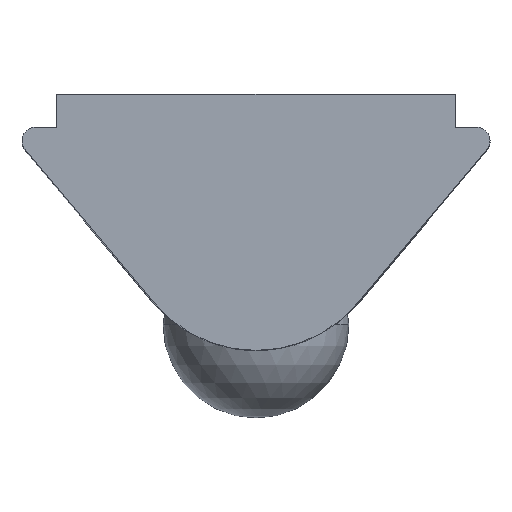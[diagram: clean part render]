
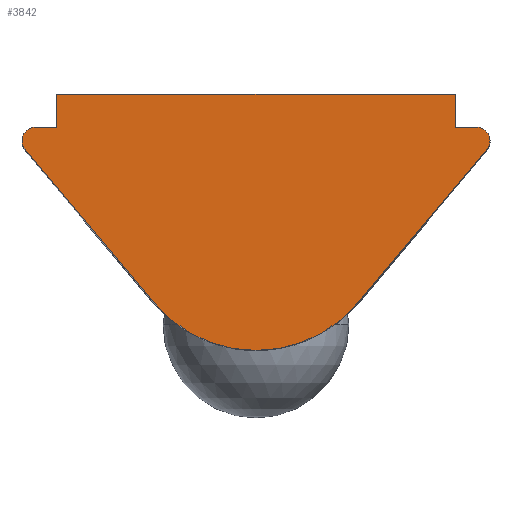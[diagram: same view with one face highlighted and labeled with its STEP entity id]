
A CAD part, top view. The second image highlights one B-rep face of the part: STEP entity #3842.
In plain terms, the highlighted planar face has unit normal (0, 0, 1).
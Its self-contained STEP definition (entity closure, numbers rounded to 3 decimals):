
#35 = DIRECTION ( 'NONE',  ( 0., 0., 1. ) ) ;
#129 = AXIS2_PLACEMENT_3D ( 'NONE', #3632, #3167, #2710 ) ;
#240 = EDGE_CURVE ( 'NONE', #4251, #1057, #3035, .T. ) ;
#328 = CARTESIAN_POINT ( 'NONE',  ( 3., 4.969, 6.5 ) ) ;
#401 = VECTOR ( 'NONE', #3441, 1000. ) ;
#486 = CARTESIAN_POINT ( 'NONE',  ( 0., 0., 6.5 ) ) ;
#517 = CARTESIAN_POINT ( 'NONE',  ( 3.321, 4.269, 6.5 ) ) ;
#519 = FACE_OUTER_BOUND ( 'NONE', #2310, .T. ) ;
#548 = ORIENTED_EDGE ( 'NONE', *, *, #1685, .T. ) ;
#554 = EDGE_CURVE ( 'NONE', #2750, #2922, #2476, .T. ) ;
#565 = VECTOR ( 'NONE', #2973, 1000. ) ;
#594 = CARTESIAN_POINT ( 'NONE',  ( 1.532, 1.826, 6.5 ) ) ;
#691 = VERTEX_POINT ( 'NONE', #818 ) ;
#780 = LINE ( 'NONE', #328, #2018 ) ;
#818 = CARTESIAN_POINT ( 'NONE',  ( -1.532, 1.826, 6.5 ) ) ;
#1040 = CIRCLE ( 'NONE', #129, 0.2 ) ;
#1057 = VERTEX_POINT ( 'NONE', #1495 ) ;
#1062 = CARTESIAN_POINT ( 'NONE',  ( -3.474, 4.141, 6.5 ) ) ;
#1071 = DIRECTION ( 'NONE',  ( 1., 0., 0. ) ) ;
#1093 = CIRCLE ( 'NONE', #3463, 2. ) ;
#1138 = DIRECTION ( 'NONE',  ( 1., 0., 0. ) ) ;
#1397 = PLANE ( 'NONE',  #4180 ) ;
#1495 = CARTESIAN_POINT ( 'NONE',  ( -3., 4.469, 6.5 ) ) ;
#1504 = ORIENTED_EDGE ( 'NONE', *, *, #3357, .T. ) ;
#1516 = DIRECTION ( 'NONE',  ( 0.643, 0.766, 0. ) ) ;
#1524 = DIRECTION ( 'NONE',  ( 0., 0., 1. ) ) ;
#1593 = VECTOR ( 'NONE', #2416, 1000. ) ;
#1596 = DIRECTION ( 'NONE',  ( 0., 0., 1. ) ) ;
#1685 = EDGE_CURVE ( 'NONE', #2922, #691, #3330, .T. ) ;
#1735 = CARTESIAN_POINT ( 'NONE',  ( -3.521, 4.269, 6.5 ) ) ;
#1974 = CARTESIAN_POINT ( 'NONE',  ( 0., 0., 6.5 ) ) ;
#1983 = CARTESIAN_POINT ( 'NONE',  ( 0., 3.111, 6.5 ) ) ;
#2018 = VECTOR ( 'NONE', #4325, 1000. ) ;
#2035 = EDGE_CURVE ( 'NONE', #2335, #4341, #780, .T. ) ;
#2049 = CARTESIAN_POINT ( 'NONE',  ( -3.321, 4.269, 6.5 ) ) ;
#2055 = ORIENTED_EDGE ( 'NONE', *, *, #240, .T. ) ;
#2068 = CIRCLE ( 'NONE', #3810, 0.2 ) ;
#2092 = CARTESIAN_POINT ( 'NONE',  ( -3.321, 4.469, 6.5 ) ) ;
#2099 = ORIENTED_EDGE ( 'NONE', *, *, #3711, .F. ) ;
#2128 = DIRECTION ( 'NONE',  ( 0., -1., 0. ) ) ;
#2188 = CARTESIAN_POINT ( 'NONE',  ( 3.321, 4.469, 6.5 ) ) ;
#2226 = ORIENTED_EDGE ( 'NONE', *, *, #2919, .T. ) ;
#2232 = EDGE_CURVE ( 'NONE', #2744, #4341, #4222, .T. ) ;
#2310 = EDGE_LOOP ( 'NONE', ( #2361, #1504, #4332, #548, #2553, #2226, #2402, #3331, #3122, #2099, #2055 ) ) ;
#2335 = VERTEX_POINT ( 'NONE', #2974 ) ;
#2361 = ORIENTED_EDGE ( 'NONE', *, *, #3963, .T. ) ;
#2364 = VECTOR ( 'NONE', #3301, 1000. ) ;
#2402 = ORIENTED_EDGE ( 'NONE', *, *, #3255, .T. ) ;
#2416 = DIRECTION ( 'NONE',  ( 0.643, -0.766, 0. ) ) ;
#2429 = LINE ( 'NONE', #1974, #3841 ) ;
#2476 = CIRCLE ( 'NONE', #2879, 0.2 ) ;
#2553 = ORIENTED_EDGE ( 'NONE', *, *, #2663, .T. ) ;
#2583 = CARTESIAN_POINT ( 'NONE',  ( -3., 4.969, 6.5 ) ) ;
#2663 = EDGE_CURVE ( 'NONE', #691, #4052, #1093, .T. ) ;
#2710 = DIRECTION ( 'NONE',  ( 1., 0., 0. ) ) ;
#2744 = VERTEX_POINT ( 'NONE', #2188 ) ;
#2750 = VERTEX_POINT ( 'NONE', #1735 ) ;
#2870 = CARTESIAN_POINT ( 'NONE',  ( -3.75, 4.469, 6.5 ) ) ;
#2879 = AXIS2_PLACEMENT_3D ( 'NONE', #2049, #1596, #1138 ) ;
#2919 = EDGE_CURVE ( 'NONE', #4052, #3418, #2429, .T. ) ;
#2922 = VERTEX_POINT ( 'NONE', #1062 ) ;
#2973 = DIRECTION ( 'NONE',  ( -1., 0., 0. ) ) ;
#2974 = CARTESIAN_POINT ( 'NONE',  ( 3., 4.969, 6.5 ) ) ;
#3035 = LINE ( 'NONE', #2583, #3956 ) ;
#3122 = ORIENTED_EDGE ( 'NONE', *, *, #2035, .F. ) ;
#3167 = DIRECTION ( 'NONE',  ( 0., 0., 1. ) ) ;
#3255 = EDGE_CURVE ( 'NONE', #3418, #2744, #2068, .T. ) ;
#3301 = DIRECTION ( 'NONE',  ( -1., 0., 0. ) ) ;
#3330 = LINE ( 'NONE', #2870, #1593 ) ;
#3331 = ORIENTED_EDGE ( 'NONE', *, *, #2232, .T. ) ;
#3357 = EDGE_CURVE ( 'NONE', #4160, #2750, #1040, .T. ) ;
#3418 = VERTEX_POINT ( 'NONE', #4329 ) ;
#3435 = CARTESIAN_POINT ( 'NONE',  ( 3.75, 4.469, 6.5 ) ) ;
#3441 = DIRECTION ( 'NONE',  ( 1., 0., 0. ) ) ;
#3457 = CARTESIAN_POINT ( 'NONE',  ( 3., 4.469, 6.5 ) ) ;
#3463 = AXIS2_PLACEMENT_3D ( 'NONE', #1983, #1524, #1071 ) ;
#3603 = DIRECTION ( 'NONE',  ( 1., 0., 0. ) ) ;
#3632 = CARTESIAN_POINT ( 'NONE',  ( -3.321, 4.269, 6.5 ) ) ;
#3711 = EDGE_CURVE ( 'NONE', #4251, #2335, #4355, .T. ) ;
#3766 = CARTESIAN_POINT ( 'NONE',  ( 3.75, 4.469, 6.5 ) ) ;
#3810 = AXIS2_PLACEMENT_3D ( 'NONE', #517, #4070, #3603 ) ;
#3820 = CARTESIAN_POINT ( 'NONE',  ( -3., 4.969, 6.5 ) ) ;
#3841 = VECTOR ( 'NONE', #1516, 1000. ) ;
#3842 = ADVANCED_FACE ( 'NONE', ( #519 ), #1397, .T. ) ;
#3902 = LINE ( 'NONE', #3435, #565 ) ;
#3907 = CARTESIAN_POINT ( 'NONE',  ( -3., 4.969, 6.5 ) ) ;
#3956 = VECTOR ( 'NONE', #2128, 1000. ) ;
#3963 = EDGE_CURVE ( 'NONE', #1057, #4160, #3902, .T. ) ;
#4044 = DIRECTION ( 'NONE',  ( 1., 0., 0. ) ) ;
#4052 = VERTEX_POINT ( 'NONE', #594 ) ;
#4070 = DIRECTION ( 'NONE',  ( 0., 0., 1. ) ) ;
#4160 = VERTEX_POINT ( 'NONE', #2092 ) ;
#4180 = AXIS2_PLACEMENT_3D ( 'NONE', #486, #35, #4044 ) ;
#4222 = LINE ( 'NONE', #3766, #2364 ) ;
#4251 = VERTEX_POINT ( 'NONE', #3820 ) ;
#4325 = DIRECTION ( 'NONE',  ( 0., -1., 0. ) ) ;
#4329 = CARTESIAN_POINT ( 'NONE',  ( 3.474, 4.141, 6.5 ) ) ;
#4332 = ORIENTED_EDGE ( 'NONE', *, *, #554, .T. ) ;
#4341 = VERTEX_POINT ( 'NONE', #3457 ) ;
#4355 = LINE ( 'NONE', #3907, #401 ) ;
